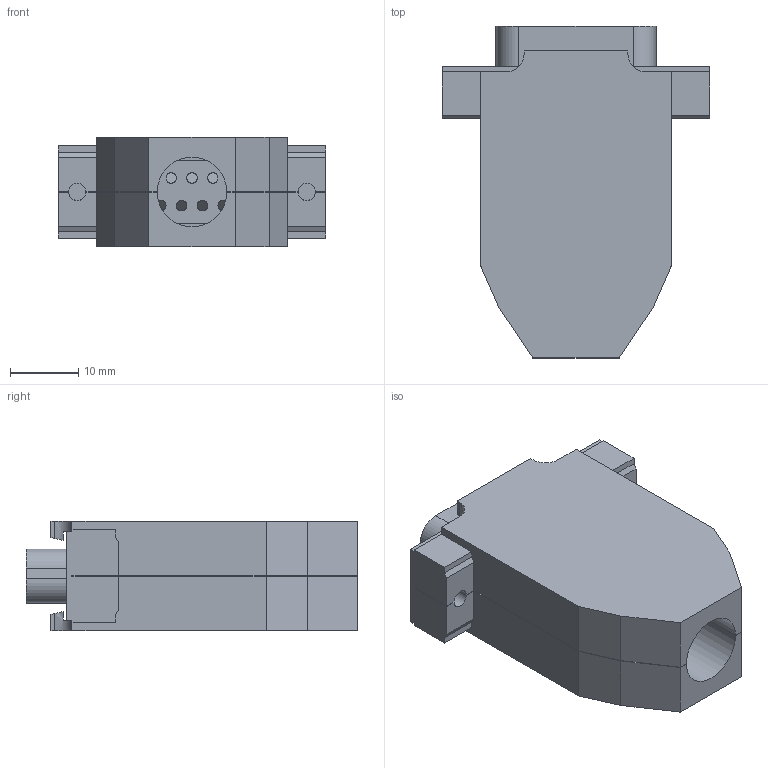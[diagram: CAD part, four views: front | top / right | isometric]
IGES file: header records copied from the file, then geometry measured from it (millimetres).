
Start section:  PTC IGES file: dsub-backshell-15pos.igs
Global section: file name: dsub-backshell-15pos.igs; native system: Pro/ENGINEER by Parametric Technology Corporation; preprocessor: 2006080; author: chrisj; organization: Unknown; date: 070126.141822; units: inch
Bounding box: 39.24 x 48.64 x 16.05 mm (x, y, z)
Surface area: 9507.1 mm2 (no closed solid volume)
Topology: 0 solids, 0 shells, 153 faces, 784 edges, 784 vertices
Faces by surface type: bspline 99, revolution 50, extrusion 4
